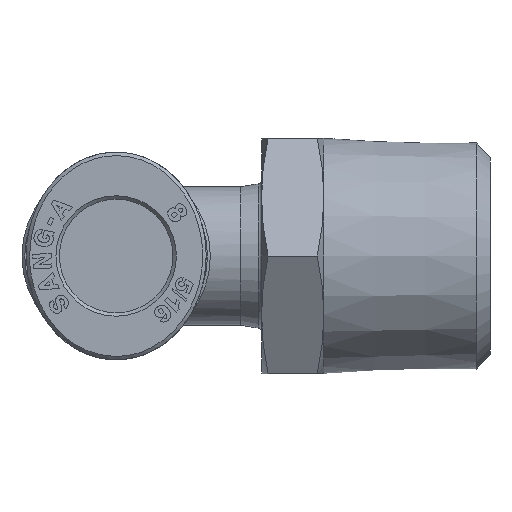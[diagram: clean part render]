
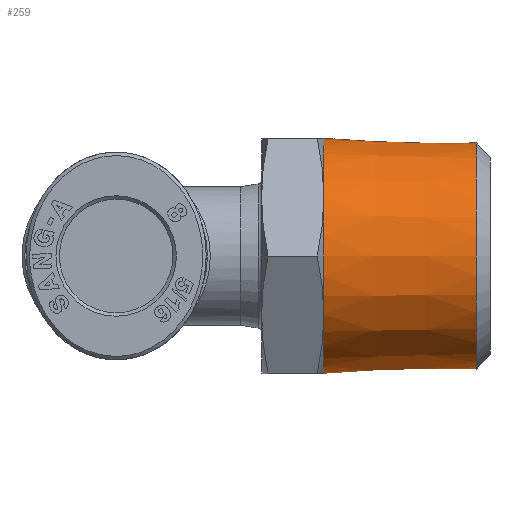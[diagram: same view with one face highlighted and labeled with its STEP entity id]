
A CAD part, front view. The second image highlights one B-rep face of the part: STEP entity #259.
In plain terms, the highlighted conical face has half-angle 1.754 degrees and reference radius 8.316 mm.
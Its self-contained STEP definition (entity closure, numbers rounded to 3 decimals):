
#180=CARTESIAN_POINT('',(17.,8.163,0.));
#181=VERTEX_POINT('',#180);
#182=CARTESIAN_POINT('',(17.,0.0,0.));
#183=DIRECTION('',(1.0,0.0,0.0));
#184=DIRECTION('',(0.0,-1.0,0.0));
#185=AXIS2_PLACEMENT_3D('',#182,#183,#184);
#186=CIRCLE('',#185,8.163);
#187=EDGE_CURVE('',#181,#181,#186,.T.);
#195=CARTESIAN_POINT('',(12.,0.0,0.0));
#196=DIRECTION('',(-1.0,0.0,0.0));
#197=DIRECTION('',(0.0,1.0,0.0));
#198=AXIS2_PLACEMENT_3D('',#195,#196,#197);
#199=CONICAL_SURFACE('',#198,8.316,1.754);
#200=CARTESIAN_POINT('',(6.,7.361,-4.25));
#201=VERTEX_POINT('',#200);
#202=CARTESIAN_POINT('',(6.,7.361,4.25));
#203=VERTEX_POINT('',#202);
#204=CARTESIAN_POINT('',(6.,0.0,0.0));
#205=DIRECTION('',(1.0,0.0,0.0));
#206=DIRECTION('',(0.0,1.0,0.0));
#207=AXIS2_PLACEMENT_3D('',#204,#205,#206);
#208=CIRCLE('',#207,8.5);
#209=EDGE_CURVE('',#201,#203,#208,.T.);
#210=ORIENTED_EDGE('',*,*,#209,.T.);
#211=CARTESIAN_POINT('',(6.,0.,8.5));
#212=VERTEX_POINT('',#211);
#213=CARTESIAN_POINT('',(6.,0.0,0.0));
#214=DIRECTION('',(1.0,0.0,0.0));
#215=DIRECTION('',(0.0,1.0,0.0));
#216=AXIS2_PLACEMENT_3D('',#213,#214,#215);
#217=CIRCLE('',#216,8.5);
#218=EDGE_CURVE('',#203,#212,#217,.T.);
#219=ORIENTED_EDGE('',*,*,#218,.T.);
#220=CARTESIAN_POINT('',(6.,-7.361,4.25));
#221=VERTEX_POINT('',#220);
#222=CARTESIAN_POINT('',(6.,0.0,0.0));
#223=DIRECTION('',(1.0,0.0,0.0));
#224=DIRECTION('',(0.0,1.0,0.0));
#225=AXIS2_PLACEMENT_3D('',#222,#223,#224);
#226=CIRCLE('',#225,8.5);
#227=EDGE_CURVE('',#212,#221,#226,.T.);
#228=ORIENTED_EDGE('',*,*,#227,.T.);
#229=CARTESIAN_POINT('',(6.,-7.361,-4.25));
#230=VERTEX_POINT('',#229);
#231=CARTESIAN_POINT('',(6.,0.0,0.0));
#232=DIRECTION('',(1.0,0.0,0.0));
#233=DIRECTION('',(0.0,1.0,0.0));
#234=AXIS2_PLACEMENT_3D('',#231,#232,#233);
#235=CIRCLE('',#234,8.5);
#236=EDGE_CURVE('',#221,#230,#235,.T.);
#237=ORIENTED_EDGE('',*,*,#236,.T.);
#238=CARTESIAN_POINT('',(6.,0.,-8.5));
#239=VERTEX_POINT('',#238);
#240=CARTESIAN_POINT('',(6.,0.0,0.0));
#241=DIRECTION('',(1.0,0.0,0.0));
#242=DIRECTION('',(0.0,1.0,0.0));
#243=AXIS2_PLACEMENT_3D('',#240,#241,#242);
#244=CIRCLE('',#243,8.5);
#245=EDGE_CURVE('',#230,#239,#244,.T.);
#246=ORIENTED_EDGE('',*,*,#245,.T.);
#247=CARTESIAN_POINT('',(6.,0.0,0.0));
#248=DIRECTION('',(1.0,0.0,0.0));
#249=DIRECTION('',(0.0,1.0,0.0));
#250=AXIS2_PLACEMENT_3D('',#247,#248,#249);
#251=CIRCLE('',#250,8.5);
#252=EDGE_CURVE('',#239,#201,#251,.T.);
#253=ORIENTED_EDGE('',*,*,#252,.T.);
#254=EDGE_LOOP('',(#210,#219,#228,#237,#246,#253));
#255=FACE_OUTER_BOUND('',#254,.T.);
#256=ORIENTED_EDGE('',*,*,#187,.F.);
#257=EDGE_LOOP('',(#256));
#258=FACE_BOUND('',#257,.T.);
#259=ADVANCED_FACE('',(#255,#258),#199,.T.);
